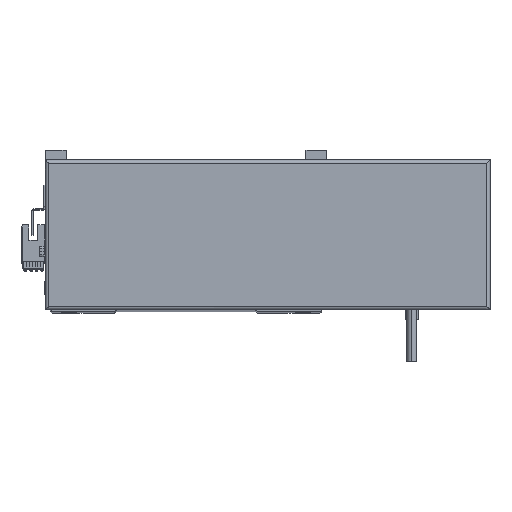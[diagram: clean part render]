
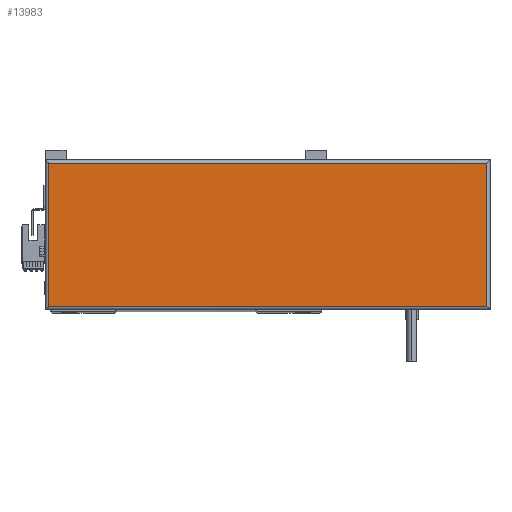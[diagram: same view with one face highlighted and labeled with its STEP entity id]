
A CAD part, top view. The second image highlights one B-rep face of the part: STEP entity #13983.
In plain terms, the highlighted planar face has unit normal (0, 0, 1).
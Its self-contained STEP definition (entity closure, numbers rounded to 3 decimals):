
#796 = CARTESIAN_POINT ( 'NONE',  ( 265., 88., 44.8 ) ) ;
#1703 = CARTESIAN_POINT ( 'NONE',  ( 0., 88., 44.8 ) ) ;
#2018 = AXIS2_PLACEMENT_3D ( 'NONE', #37124, #11736, #11200 ) ;
#5453 = CARTESIAN_POINT ( 'NONE',  ( 2., 0., 44.8 ) ) ;
#8978 = DIRECTION ( 'NONE',  ( 0., -1., 0. ) ) ;
#9241 = ORIENTED_EDGE ( 'NONE', *, *, #22307, .T. ) ;
#9992 = VECTOR ( 'NONE', #47029, 1000. ) ;
#11200 = DIRECTION ( 'NONE',  ( 1., 0., 0. ) ) ;
#11735 = LINE ( 'NONE', #13490, #9992 ) ;
#11736 = DIRECTION ( 'NONE',  ( 0., 0., 1. ) ) ;
#12840 = EDGE_CURVE ( 'NONE', #25504, #19636, #14240, .T. ) ;
#13342 = VERTEX_POINT ( 'NONE', #20114 ) ;
#13490 = CARTESIAN_POINT ( 'NONE',  ( 267., 2., 44.8 ) ) ;
#13983 = ADVANCED_FACE ( 'NONE', ( #29033 ), #22208, .T. ) ;
#14240 = LINE ( 'NONE', #34005, #26236 ) ;
#17510 = CARTESIAN_POINT ( 'NONE',  ( 2., 2., 44.8 ) ) ;
#19636 = VERTEX_POINT ( 'NONE', #796 ) ;
#20114 = CARTESIAN_POINT ( 'NONE',  ( 2., 88., 44.8 ) ) ;
#20368 = CARTESIAN_POINT ( 'NONE',  ( 265., 2., 44.8 ) ) ;
#22021 = ORIENTED_EDGE ( 'NONE', *, *, #12840, .T. ) ;
#22208 = PLANE ( 'NONE',  #2018 ) ;
#22307 = EDGE_CURVE ( 'NONE', #23429, #25504, #11735, .T. ) ;
#23429 = VERTEX_POINT ( 'NONE', #17510 ) ;
#23962 = ORIENTED_EDGE ( 'NONE', *, *, #34918, .T. ) ;
#25504 = VERTEX_POINT ( 'NONE', #20368 ) ;
#26189 = LINE ( 'NONE', #5453, #44621 ) ;
#26236 = VECTOR ( 'NONE', #37686, 1000. ) ;
#26589 = ORIENTED_EDGE ( 'NONE', *, *, #31843, .T. ) ;
#28656 = EDGE_LOOP ( 'NONE', ( #22021, #23962, #26589, #9241 ) ) ;
#29033 = FACE_OUTER_BOUND ( 'NONE', #28656, .T. ) ;
#31843 = EDGE_CURVE ( 'NONE', #13342, #23429, #26189, .T. ) ;
#32817 = VECTOR ( 'NONE', #45687, 1000. ) ;
#34005 = CARTESIAN_POINT ( 'NONE',  ( 265., 90., 44.8 ) ) ;
#34918 = EDGE_CURVE ( 'NONE', #19636, #13342, #42025, .T. ) ;
#37124 = CARTESIAN_POINT ( 'NONE',  ( 133.5, 45., 44.8 ) ) ;
#37686 = DIRECTION ( 'NONE',  ( 0., 1., 0. ) ) ;
#42025 = LINE ( 'NONE', #1703, #32817 ) ;
#44621 = VECTOR ( 'NONE', #8978, 1000. ) ;
#45687 = DIRECTION ( 'NONE',  ( -1., 0., 0. ) ) ;
#47029 = DIRECTION ( 'NONE',  ( 1., 0., 0. ) ) ;
